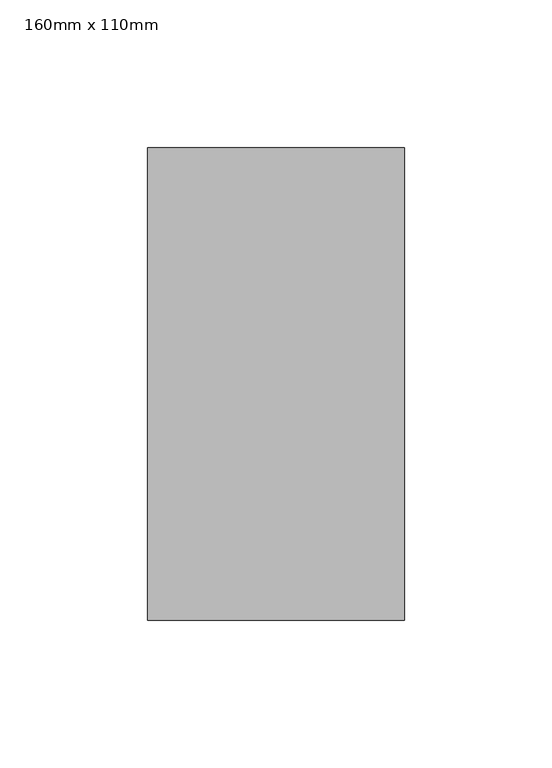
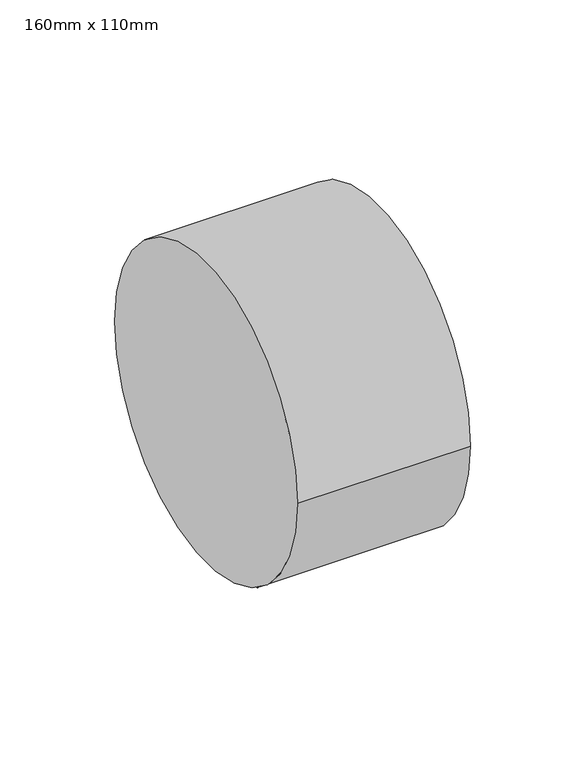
"""IFC4 building model written with IfcOpenShell, lengths in millimetres: pipe fitting geometry, PipeFitting_HTA_CPVC_ConcentricReducingBushes : 160mm x 110mm."""

from ifc_helpers import new_model, si_unit, point, frame, origin, origin_2d, place, context, project, spatial, circle_curve, trimmed, segment, composite_curve, outline, extrude, source, transform, mapped, element, save


def pipe_fitting_160mm_x_110mm_df2a19c2(model_context):
    return source(origin(), model_context, "Body", "SweptSolid", [
        extrude(outline(composite_curve([segment(trimmed(circle_curve(origin_2d(), 80.0), [point((-80.0, 0.0))], [point((80.0, 0.0))], False, "CARTESIAN"), True, "CONTINUOUS"), segment(trimmed(circle_curve(origin_2d(), 80.0), [point((80.0, 0.0))], [point((-80.0, 0.0))], False, "CARTESIAN"), True, "CONTINUOUS")], self_intersect=False)), frame((-43.5, 0.0, 0.0), z_axis=(1.0, 0.0, 0.0), x_axis=(0.0, 1.0, 0.0)), (0.0, 0.0, 1.0), 87.0),
    ])


if __name__ == "__main__":
    model = new_model("IFC4")
    model_context = context("Model", 3, world=origin())
    ifc_project = project(units=[si_unit("LENGTHUNIT", "METRE", prefix="MILLI")], contexts=[model_context])
    site = spatial("IfcSite", under=ifc_project)
    building = spatial("IfcBuilding", under=site)
    placement = place(None, origin())
    pipe_fitting_160mm_x_110mm_shape = pipe_fitting_160mm_x_110mm_df2a19c2(model_context)
    element("IfcPipeFitting", 1, ObjectType="PipeFitting_HTA_CPVC_ConcentricReducingBushes : 160mm x 110mm", at=placement, inside=building, context=model_context, shape_type="MappedRepresentation", body=[
        mapped(pipe_fitting_160mm_x_110mm_shape, transform((0.0, 0.0, 0.0), x_axis=(1.0, 0.0, 0.0), y_axis=(0.0, 1.0, 0.0), z_axis=(0.0, 0.0, 1.0))),
    ])
    save(model, "model.ifc")
